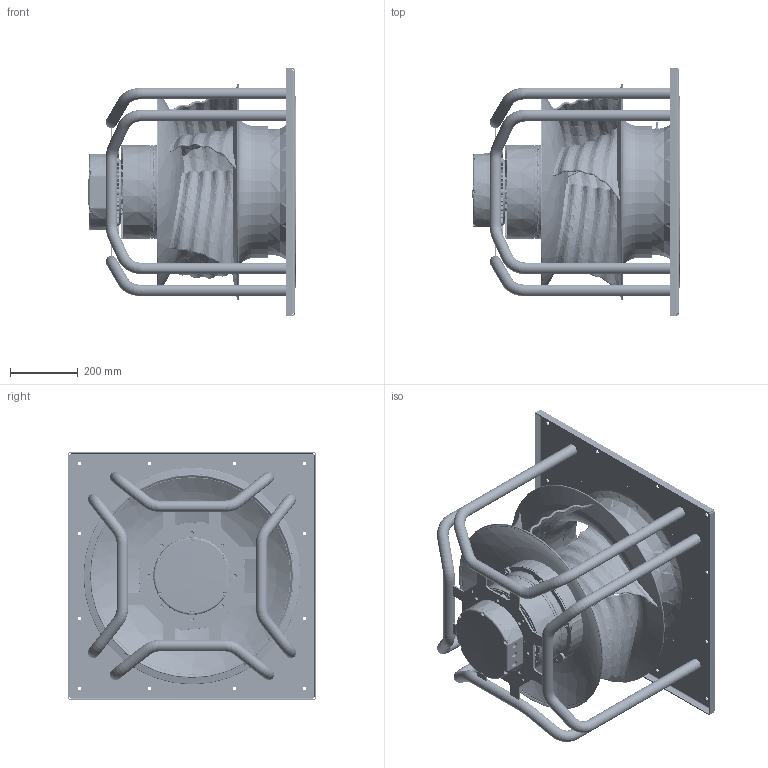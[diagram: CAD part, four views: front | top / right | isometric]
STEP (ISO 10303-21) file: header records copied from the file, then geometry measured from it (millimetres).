
FILE_DESCRIPTION((''),'2;1');
FILE_NAME('ZAC_11-30-50-KM','2019-03-13T',('hummt'),(''),'CREO PARAMETRIC BY PTC INC, 2017170','CREO PARAMETRIC BY PTC INC, 2017170','');
FILE_SCHEMA(('AUTOMOTIVE_DESIGN { 1 0 10303 214 1 1 1 1 }'));
Length unit declared in the file: millimetre
Products named in the file (1): ZAC_11-30-50-KM
Bounding box: 609.51 x 730 x 730 mm (x, y, z)
Volume: 19355723.2 mm3; surface area: 4985933.1 mm2
Topology: 2 solids, 2 shells, 7726 faces, 19400 edges, 11802 vertices
Faces by surface type: bspline 2237, plane 1785, cylinder 1268, torus 1125, cone 827, extrusion 434, sphere 42, revolution 8
Entity records: 465193 total; most frequent: CARTESIAN_POINT 286226, ORIENTED_EDGE 38790, DIRECTION 30376, EDGE_CURVE 19395, AXIS2_PLACEMENT_3D 12456, VERTEX_POINT 11802, EDGE_LOOP 8091, FACE_OUTER_BOUND 7726
